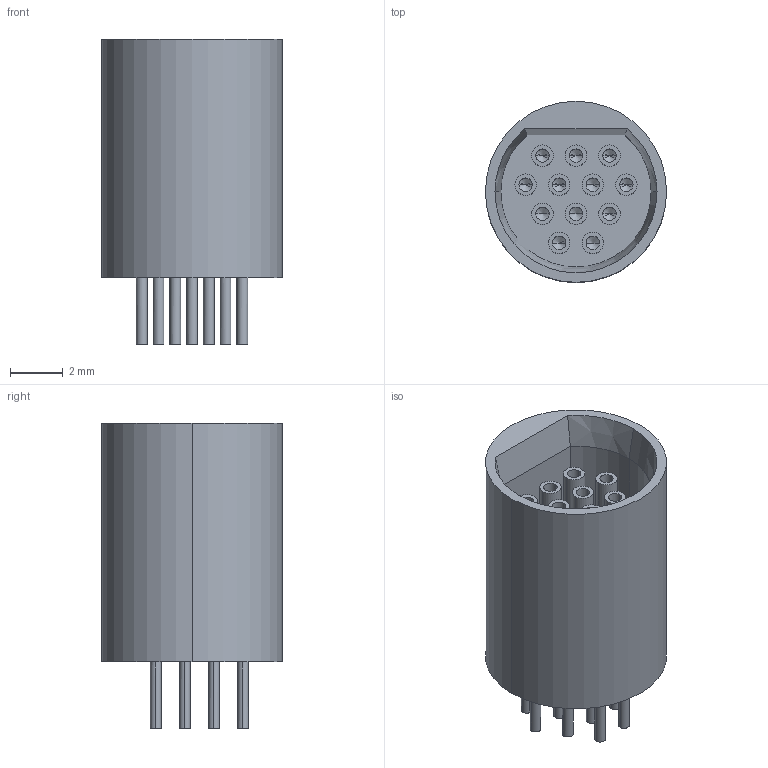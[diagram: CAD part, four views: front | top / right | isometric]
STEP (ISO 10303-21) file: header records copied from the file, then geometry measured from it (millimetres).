
FILE_DESCRIPTION (( 'STEP AP214' ), '1' );
FILE_NAME ('A22016-001 REV C.STEP', '2011-07-20T17:22:38', ( 'IT' ), ( '' ), 'SwSTEP 2.0', 'SolidWorks 2010', '' );
FILE_SCHEMA (( 'AUTOMOTIVE_DESIGN' ));
Length unit declared in the file: inch
Products named in the file (1): A22016-001
Bounding box: 6.86 x 6.86 x 11.56 mm (x, y, z)
Volume: 223.4 mm3; surface area: 673.7 mm2
Topology: 1 solids, 49 shells, 424 faces, 881 edges, 569 vertices
Faces by surface type: plane 223, cylinder 173, cone 27, bspline 1
Entity records: 11432 total; most frequent: CARTESIAN_POINT 2288, DIRECTION 1992, ORIENTED_EDGE 1714, EDGE_CURVE 857, AXIS2_PLACEMENT_3D 749, VERTEX_POINT 569, VECTOR 494, LINE 494
